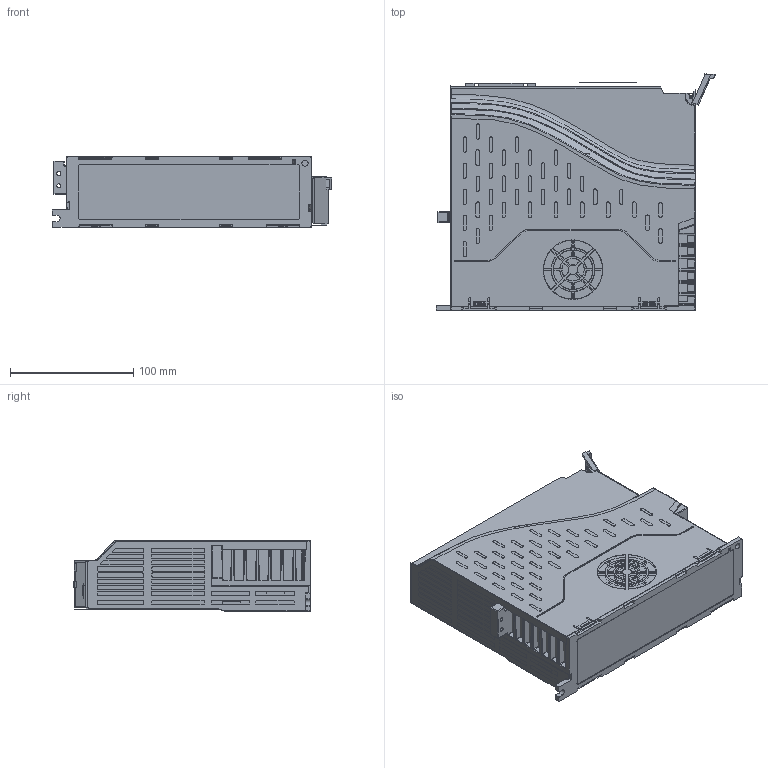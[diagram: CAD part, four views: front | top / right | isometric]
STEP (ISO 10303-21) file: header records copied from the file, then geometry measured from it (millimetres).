
FILE_DESCRIPTION((''),'2;1');
FILE_NAME('00-1500W-SF-ASM_ASM_ASM','2022-10-21T',('samkoon'),(''),'PRO/ENGINEER BY PARAMETRIC TECHNOLOGY CORPORATION, 2015240','PRO/ENGINEER BY PARAMETRIC TECHNOLOGY CORPORATION, 2015240','');
FILE_SCHEMA(('AUTOMOTIVE_DESIGN { 1 0 10303 214 1 1 1 1 }'));
Products named in the file (4): 1500W-SF-DOWN-BASE_538_1; 00-1500W-SF-ASM_ASM_312_ASM_1_ASM; 00-1500W-SF-ASM_ASM_ASM_1_ASM; 00-1500W-SF-ASM_ASM_ASM
Assembly tree (3 placements, depth 4):
  00-1500W-SF-ASM_ASM_ASM
    00-1500W-SF-ASM_ASM_ASM_1_ASM
      00-1500W-SF-ASM_ASM_312_ASM_1_ASM
        1500W-SF-DOWN-BASE_538_1
Bounding box: 227.34 x 192.37 x 57 mm (x, y, z)
Volume: 1063168.9 mm3; surface area: 515165.9 mm2
Topology: 1 solids, 74 shells, 2074 faces, 8023 edges, 5806 vertices
Faces by surface type: cylinder 746, plane 580, bspline 341, sphere 209, torus 128, cone 70
Entity records: 111272 total; most frequent: CARTESIAN_POINT 49414, ORIENTED_EDGE 12393, DIRECTION 10594, EDGE_CURVE 7814, VERTEX_POINT 5806, VECTOR 3810, LINE 3810, AXIS2_PLACEMENT_3D 3392
